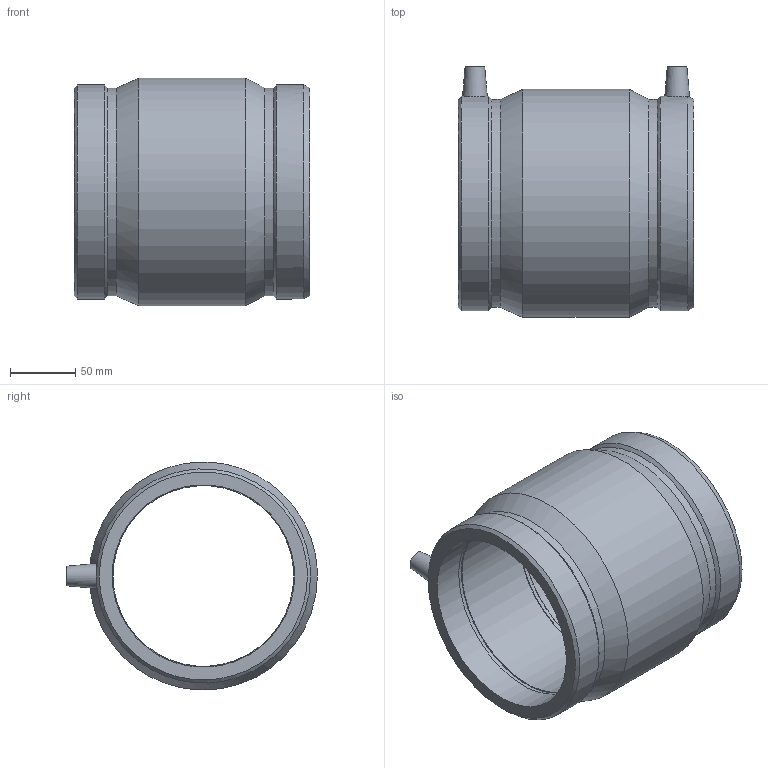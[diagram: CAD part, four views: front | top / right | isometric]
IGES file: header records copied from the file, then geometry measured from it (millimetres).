
Global section: file name: 450104140; native system: Autodesk Inventor 2019; preprocessor: unknown; author: KIM; date: 20220701.124825; units: millimetre
Bounding box: 181 x 192.5 x 174.67 mm (x, y, z)
Volume: 1297508 mm3; surface area: 193548.9 mm2
Topology: 1 solids, 1 shells, 38 faces, 91 edges, 64 vertices
Faces by surface type: bspline 38
